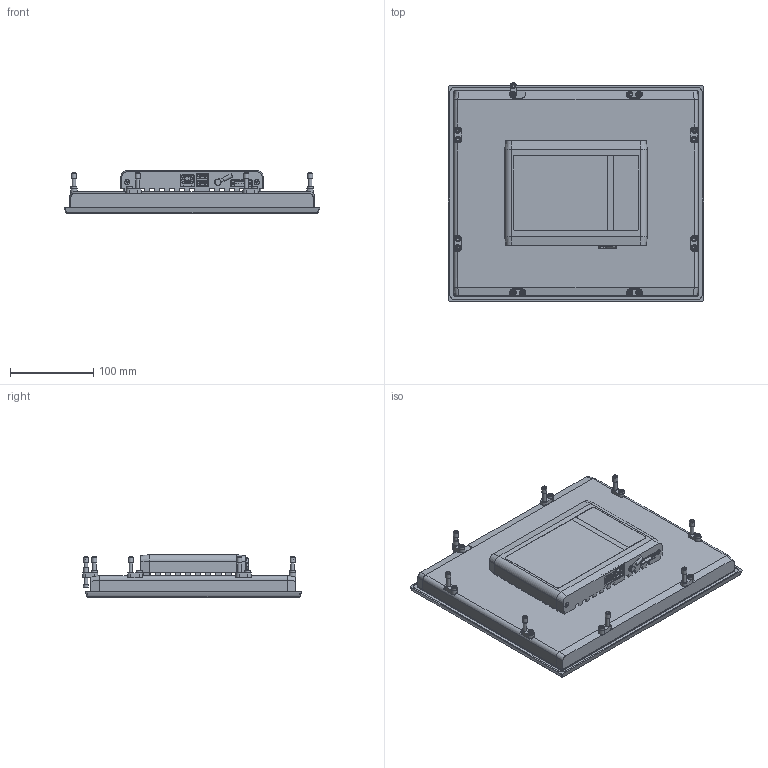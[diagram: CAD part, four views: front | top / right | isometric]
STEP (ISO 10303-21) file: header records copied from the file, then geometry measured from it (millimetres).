
FILE_DESCRIPTION(/* description */ (''),/* implementation_level */ '2;1');
FILE_NAME(/* name */ '0000004728_CP2912-0010-2024-02-05.stp',/* time_stamp */ '2024-02-05T15:03:39+01:00',/* author */ ('simonejochim'),/* organization */ (''),/* preprocessor_version */ 'ST-DEVELOPER v19.2',/* originating_system */ 'Autodesk Inventor 2023',/* authorisation */ '');
FILE_SCHEMA (('AUTOMOTIVE_DESIGN { 1 0 10303 214 3 1 1 }'));
Products named in the file (1): CP2912-0010_Solid_X0205
Bounding box: 306 x 262 x 51.81 mm (x, y, z)
Volume: 2077346.7 mm3; surface area: 265721.2 mm2
Topology: 4 solids, 4 shells, 1761 faces, 4983 edges, 3273 vertices
Faces by surface type: plane 1167, cylinder 474, cone 73, bspline 45, torus 2
Full cylindrical faces by diameter (mm): 1.567 x2, 3 x9, 4.4 x18, 4.917 x8, 5.9 x1, 6 x12, 7 x8
Entity records: 61494 total; most frequent: CARTESIAN_POINT 14215, ORIENTED_EDGE 9930, DIRECTION 9157, EDGE_CURVE 4965, LINE 3529, VECTOR 3529, VERTEX_POINT 3273, AXIS2_PLACEMENT_3D 2814
